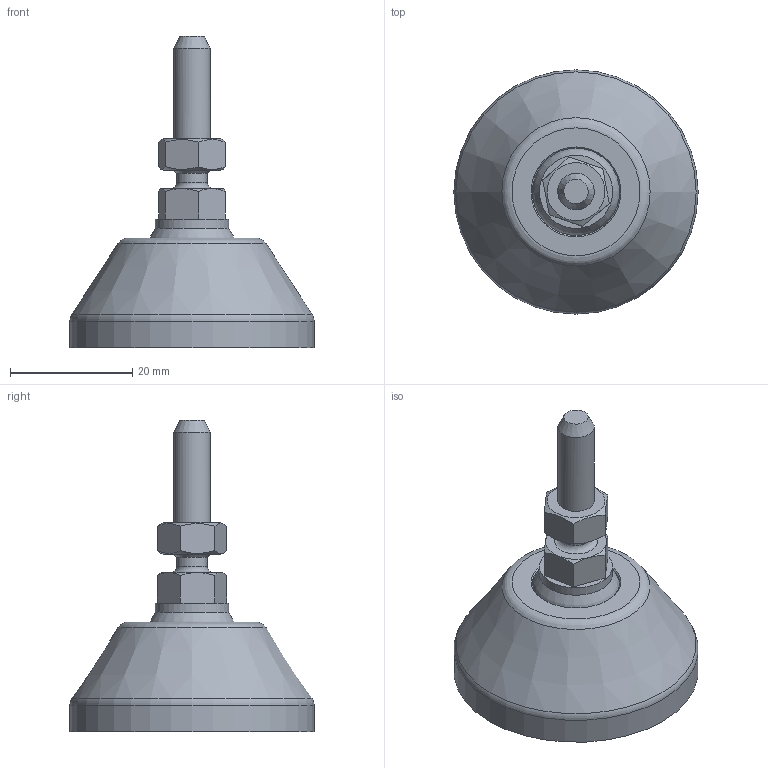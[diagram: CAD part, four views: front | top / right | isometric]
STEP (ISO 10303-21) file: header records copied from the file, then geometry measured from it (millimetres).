
FILE_DESCRIPTION(('STEP AP203'), '1');
FILE_NAME('栖闉罻', '', ('UNSPECIFIED'), ('UNSPECIFIED'), 'C3D Converter', 'C3D Toolkit', '');
FILE_SCHEMA(('CONFIG_CONTROL_DESIGN'));
Length unit declared in the file: millimetre
Products named in the file (4): A00015.1040; A00020.106030
Assembly tree (3 placements, depth 3):
  (unnamed)
    A00015.1040
    A00020.106030
      (unnamed)
Bounding box: 40 x 40 x 51.1 mm (x, y, z)
Volume: 12859.1 mm3; surface area: 7857.4 mm2
Topology: 3 solids, 3 shells, 142 faces, 396 edges, 264 vertices
Faces by surface type: plane 78, cylinder 26, torus 21, cone 15, sphere 2
Full cylindrical faces by diameter (mm): 4.917 x1, 5 x1, 6 x1, 12 x1, 14.3 x1, 15 x2, 15.5 x1, 32 x1, 40 x1
Entity records: 8306 total; most frequent: CARTESIAN_POINT 3421, ORIENTED_EDGE 738, DIRECTION 736, EDGE_CURVE 369, AXIS2_PLACEMENT_3D 295, VERTEX_POINT 263, EDGE_LOOP 174, FACE_BOUND 155
